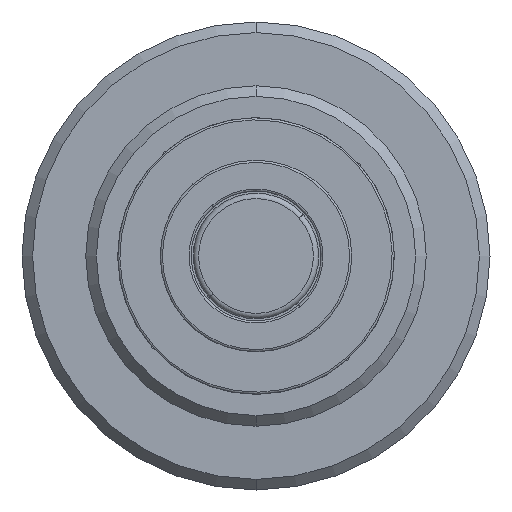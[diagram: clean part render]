
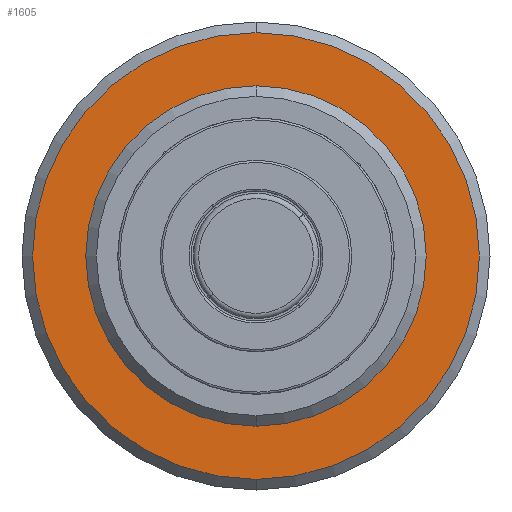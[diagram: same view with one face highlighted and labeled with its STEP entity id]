
A CAD part, front view. The second image highlights one B-rep face of the part: STEP entity #1605.
In plain terms, the highlighted planar face has unit normal (0, -1, 0).
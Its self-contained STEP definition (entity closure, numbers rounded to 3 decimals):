
#54 = DIRECTION ( 'NONE',  ( 0., 0., 1. ) ) ;
#107 = CARTESIAN_POINT ( 'NONE',  ( -11., 11.8, 0. ) ) ;
#119 = DIRECTION ( 'NONE',  ( 0., 0., -1. ) ) ;
#151 = EDGE_LOOP ( 'NONE', ( #845, #1677 ) ) ;
#179 = AXIS2_PLACEMENT_3D ( 'NONE', #647, #1662, #939 ) ;
#230 = DIRECTION ( 'NONE',  ( 0., -1., 0. ) ) ;
#234 = AXIS2_PLACEMENT_3D ( 'NONE', #1680, #796, #54 ) ;
#250 = ORIENTED_EDGE ( 'NONE', *, *, #690, .T. ) ;
#369 = AXIS2_PLACEMENT_3D ( 'NONE', #425, #981, #1021 ) ;
#372 = VERTEX_POINT ( 'NONE', #410 ) ;
#385 = CARTESIAN_POINT ( 'NONE',  ( 0., 11.8, -10.5 ) ) ;
#410 = CARTESIAN_POINT ( 'NONE',  ( 0., 11.8, -8. ) ) ;
#411 = AXIS2_PLACEMENT_3D ( 'NONE', #1466, #230, #119 ) ;
#425 = CARTESIAN_POINT ( 'NONE',  ( 0., 11.8, 0. ) ) ;
#429 = PLANE ( 'NONE',  #1730 ) ;
#603 = EDGE_CURVE ( 'NONE', #372, #701, #1661, .T. ) ;
#620 = CARTESIAN_POINT ( 'NONE',  ( 0., 11.8, 10.5 ) ) ;
#647 = CARTESIAN_POINT ( 'NONE',  ( 0., 11.8, 0. ) ) ;
#690 = EDGE_CURVE ( 'NONE', #1089, #847, #1164, .T. ) ;
#701 = VERTEX_POINT ( 'NONE', #1028 ) ;
#766 = EDGE_CURVE ( 'NONE', #847, #1089, #1621, .T. ) ;
#796 = DIRECTION ( 'NONE',  ( 0., -1., 0. ) ) ;
#799 = DIRECTION ( 'NONE',  ( 0., 0., 1. ) ) ;
#845 = ORIENTED_EDGE ( 'NONE', *, *, #603, .F. ) ;
#847 = VERTEX_POINT ( 'NONE', #385 ) ;
#870 = EDGE_CURVE ( 'NONE', #701, #372, #1576, .T. ) ;
#939 = DIRECTION ( 'NONE',  ( 0., 0., -1. ) ) ;
#981 = DIRECTION ( 'NONE',  ( 0., -1., 0. ) ) ;
#1021 = DIRECTION ( 'NONE',  ( 0., 0., 1. ) ) ;
#1028 = CARTESIAN_POINT ( 'NONE',  ( 0., 11.8, 8. ) ) ;
#1065 = EDGE_LOOP ( 'NONE', ( #250, #1457 ) ) ;
#1089 = VERTEX_POINT ( 'NONE', #620 ) ;
#1164 = CIRCLE ( 'NONE', #369, 10.5 ) ;
#1319 = FACE_BOUND ( 'NONE', #151, .T. ) ;
#1343 = FACE_OUTER_BOUND ( 'NONE', #1065, .T. ) ;
#1457 = ORIENTED_EDGE ( 'NONE', *, *, #766, .T. ) ;
#1466 = CARTESIAN_POINT ( 'NONE',  ( 0., 11.8, 0. ) ) ;
#1576 = CIRCLE ( 'NONE', #179, 8. ) ;
#1605 = ADVANCED_FACE ( 'NONE', ( #1343, #1319 ), #429, .F. ) ;
#1621 = CIRCLE ( 'NONE', #234, 10.5 ) ;
#1661 = CIRCLE ( 'NONE', #411, 8. ) ;
#1662 = DIRECTION ( 'NONE',  ( 0., -1., 0. ) ) ;
#1677 = ORIENTED_EDGE ( 'NONE', *, *, #870, .F. ) ;
#1680 = CARTESIAN_POINT ( 'NONE',  ( 0., 11.8, 0. ) ) ;
#1682 = DIRECTION ( 'NONE',  ( 0., 1., 0. ) ) ;
#1730 = AXIS2_PLACEMENT_3D ( 'NONE', #107, #1682, #799 ) ;
